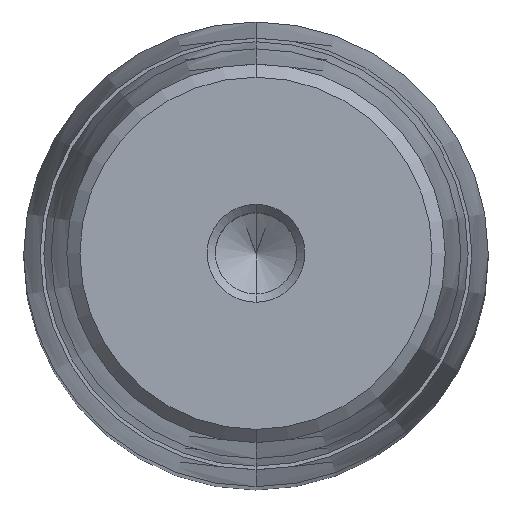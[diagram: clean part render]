
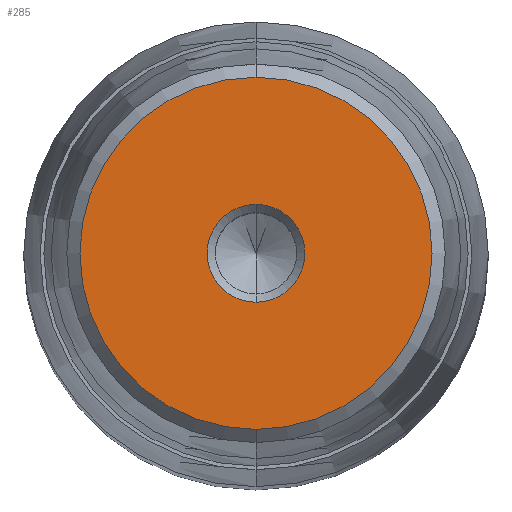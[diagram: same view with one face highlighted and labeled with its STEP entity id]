
A CAD part, top view. The second image highlights one B-rep face of the part: STEP entity #285.
In plain terms, the highlighted planar face has unit normal (0, 0, 1).
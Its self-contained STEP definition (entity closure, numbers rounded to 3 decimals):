
#164=CARTESIAN_POINT('Axis2P3D Location',(0.,0.,48.)) ;
#168=CARTESIAN_POINT('Vertex',(4.,0.,48.)) ;
#170=CARTESIAN_POINT('Vertex',(0.,-4.,48.)) ;
#173=CARTESIAN_POINT('Axis2P3D Location',(0.,0.,48.)) ;
#177=CARTESIAN_POINT('Vertex',(0.,4.,48.)) ;
#228=CARTESIAN_POINT('Axis2P3D Location',(0.,4.,48.)) ;
#233=CARTESIAN_POINT('Axis2P3D Location',(0.,0.,48.)) ;
#237=CARTESIAN_POINT('Vertex',(0.,14.4,48.)) ;
#239=CARTESIAN_POINT('Vertex',(14.4,0.,48.)) ;
#242=CARTESIAN_POINT('Axis2P3D Location',(0.,0.,48.)) ;
#246=CARTESIAN_POINT('Vertex',(-14.4,0.,48.)) ;
#249=CARTESIAN_POINT('Axis2P3D Location',(0.,0.,48.)) ;
#253=CARTESIAN_POINT('Vertex',(0.,-14.4,48.)) ;
#256=CARTESIAN_POINT('Axis2P3D Location',(0.,0.,48.)) ;
#267=CARTESIAN_POINT('Axis2P3D Location',(0.,0.,48.)) ;
#271=CARTESIAN_POINT('Vertex',(-4.,0.,48.)) ;
#274=CARTESIAN_POINT('Axis2P3D Location',(0.,0.,48.)) ;
#165=DIRECTION('Axis2P3D Direction',(-0.,0.,1.)) ;
#174=DIRECTION('Axis2P3D Direction',(-0.,0.,1.)) ;
#229=DIRECTION('Axis2P3D Direction',(0.,0.,-1.)) ;
#230=DIRECTION('Axis2P3D XDirection',(0.,1.,0.)) ;
#234=DIRECTION('Axis2P3D Direction',(0.,0.,-1.)) ;
#243=DIRECTION('Axis2P3D Direction',(0.,0.,-1.)) ;
#250=DIRECTION('Axis2P3D Direction',(0.,0.,-1.)) ;
#257=DIRECTION('Axis2P3D Direction',(0.,0.,-1.)) ;
#268=DIRECTION('Axis2P3D Direction',(0.,0.,-1.)) ;
#275=DIRECTION('Axis2P3D Direction',(0.,0.,-1.)) ;
#166=AXIS2_PLACEMENT_3D('Circle Axis2P3D',#164,#165,$) ;
#175=AXIS2_PLACEMENT_3D('Circle Axis2P3D',#173,#174,$) ;
#231=AXIS2_PLACEMENT_3D('Plane Axis2P3D',#228,#229,#230) ;
#235=AXIS2_PLACEMENT_3D('Circle Axis2P3D',#233,#234,$) ;
#244=AXIS2_PLACEMENT_3D('Circle Axis2P3D',#242,#243,$) ;
#251=AXIS2_PLACEMENT_3D('Circle Axis2P3D',#249,#250,$) ;
#258=AXIS2_PLACEMENT_3D('Circle Axis2P3D',#256,#257,$) ;
#269=AXIS2_PLACEMENT_3D('Circle Axis2P3D',#267,#268,$) ;
#276=AXIS2_PLACEMENT_3D('Circle Axis2P3D',#274,#275,$) ;
#262=ORIENTED_EDGE('',*,*,#241,.F.) ;
#263=ORIENTED_EDGE('',*,*,#248,.F.) ;
#264=ORIENTED_EDGE('',*,*,#255,.F.) ;
#265=ORIENTED_EDGE('',*,*,#260,.F.) ;
#280=ORIENTED_EDGE('',*,*,#172,.T.) ;
#281=ORIENTED_EDGE('',*,*,#273,.T.) ;
#282=ORIENTED_EDGE('',*,*,#278,.T.) ;
#283=ORIENTED_EDGE('',*,*,#179,.T.) ;
#284=FACE_BOUND('',#279,.T.) ;
#285=ADVANCED_FACE('722-38x180x213',(#266,#284),#232,.F.) ;
#167=CIRCLE('generated circle',#166,4.) ;
#176=CIRCLE('generated circle',#175,4.) ;
#236=CIRCLE('generated circle',#235,14.4) ;
#245=CIRCLE('generated circle',#244,14.4) ;
#252=CIRCLE('generated circle',#251,14.4) ;
#259=CIRCLE('generated circle',#258,14.4) ;
#270=CIRCLE('generated circle',#269,4.) ;
#277=CIRCLE('generated circle',#276,4.) ;
#172=EDGE_CURVE('',#169,#171,#167,.F.) ;
#179=EDGE_CURVE('',#178,#169,#176,.F.) ;
#241=EDGE_CURVE('',#238,#240,#236,.T.) ;
#248=EDGE_CURVE('',#247,#238,#245,.T.) ;
#255=EDGE_CURVE('',#254,#247,#252,.T.) ;
#260=EDGE_CURVE('',#240,#254,#259,.T.) ;
#273=EDGE_CURVE('',#171,#272,#270,.T.) ;
#278=EDGE_CURVE('',#272,#178,#277,.T.) ;
#261=EDGE_LOOP('',(#262,#263,#264,#265)) ;
#279=EDGE_LOOP('',(#280,#281,#282,#283)) ;
#266=FACE_OUTER_BOUND('',#261,.T.) ;
#232=PLANE('Plane',#231) ;
#169=VERTEX_POINT('',#168) ;
#171=VERTEX_POINT('',#170) ;
#178=VERTEX_POINT('',#177) ;
#238=VERTEX_POINT('',#237) ;
#240=VERTEX_POINT('',#239) ;
#247=VERTEX_POINT('',#246) ;
#254=VERTEX_POINT('',#253) ;
#272=VERTEX_POINT('',#271) ;
